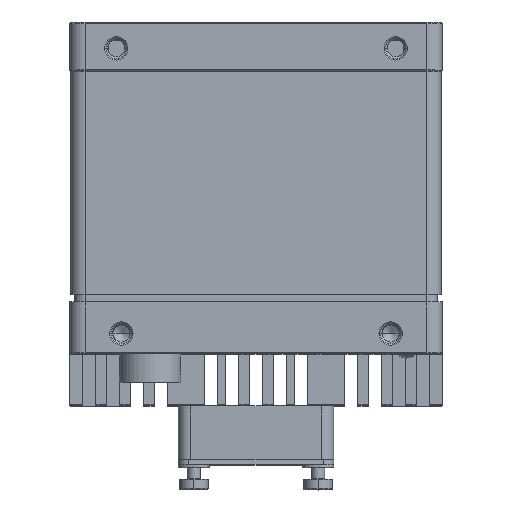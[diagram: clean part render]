
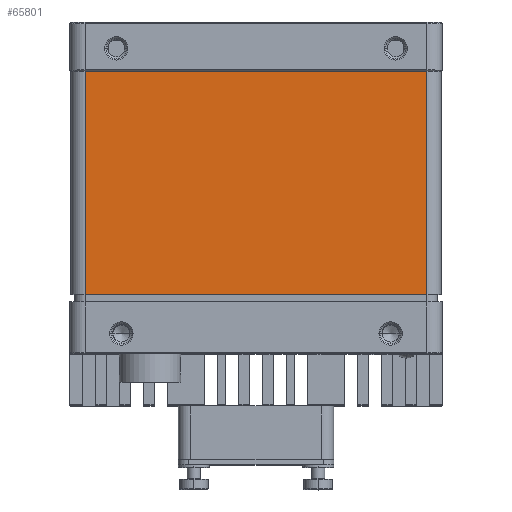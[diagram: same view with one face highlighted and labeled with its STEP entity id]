
A CAD part, top view. The second image highlights one B-rep face of the part: STEP entity #65801.
In plain terms, the highlighted planar face has unit normal (0, 0, 1).
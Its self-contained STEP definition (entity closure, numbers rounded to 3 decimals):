
#14945=DIRECTION('',(1.,0.,0.));
#14946=VECTOR('',#14945,66.);
#14947=CARTESIAN_POINT('',(-33.,-55.1,35.8));
#14948=LINE('',#14947,#14946);
#15854=DIRECTION('',(0.,-1.,0.));
#15855=VECTOR('',#15854,43.1);
#15856=CARTESIAN_POINT('',(-33.,-12.,35.8));
#15857=LINE('',#15856,#15855);
#16832=DIRECTION('',(0.,1.,0.));
#16833=VECTOR('',#16832,43.1);
#16834=CARTESIAN_POINT('',(33.,-55.1,35.8));
#16835=LINE('',#16834,#16833);
#16862=DIRECTION('',(1.,0.,0.));
#16863=VECTOR('',#16862,66.);
#16864=CARTESIAN_POINT('',(-33.,-12.,35.8));
#16865=LINE('',#16864,#16863);
#46989=CARTESIAN_POINT('',(-33.,-55.1,35.8));
#46990=VERTEX_POINT('',#46989);
#46991=CARTESIAN_POINT('',(33.,-55.1,35.8));
#46992=VERTEX_POINT('',#46991);
#47147=CARTESIAN_POINT('',(-33.,-12.,35.8));
#47148=VERTEX_POINT('',#47147);
#47149=CARTESIAN_POINT('',(33.,-12.,35.8));
#47150=VERTEX_POINT('',#47149);
#65790=CARTESIAN_POINT('',(33.,-10.,35.8));
#65791=DIRECTION('',(0.,0.,-1.));
#65792=DIRECTION('',(-1.,0.,0.));
#65793=AXIS2_PLACEMENT_3D('',#65790,#65791,#65792);
#65794=PLANE('',#65793);
#65795=ORIENTED_EDGE('',*,*,#65781,.T.);
#65796=ORIENTED_EDGE('',*,*,#65756,.F.);
#65797=ORIENTED_EDGE('',*,*,#64222,.F.);
#65798=ORIENTED_EDGE('',*,*,#64941,.F.);
#65799=EDGE_LOOP('',(#65795,#65796,#65797,#65798));
#65800=FACE_OUTER_BOUND('',#65799,.F.);
#65801=ADVANCED_FACE('',(#65800),#65794,.F.);
#64222=EDGE_CURVE('',#46990,#46992,#14948,.T.);
#64941=EDGE_CURVE('',#47148,#46990,#15857,.T.);
#65756=EDGE_CURVE('',#46992,#47150,#16835,.T.);
#65781=EDGE_CURVE('',#47148,#47150,#16865,.T.);
